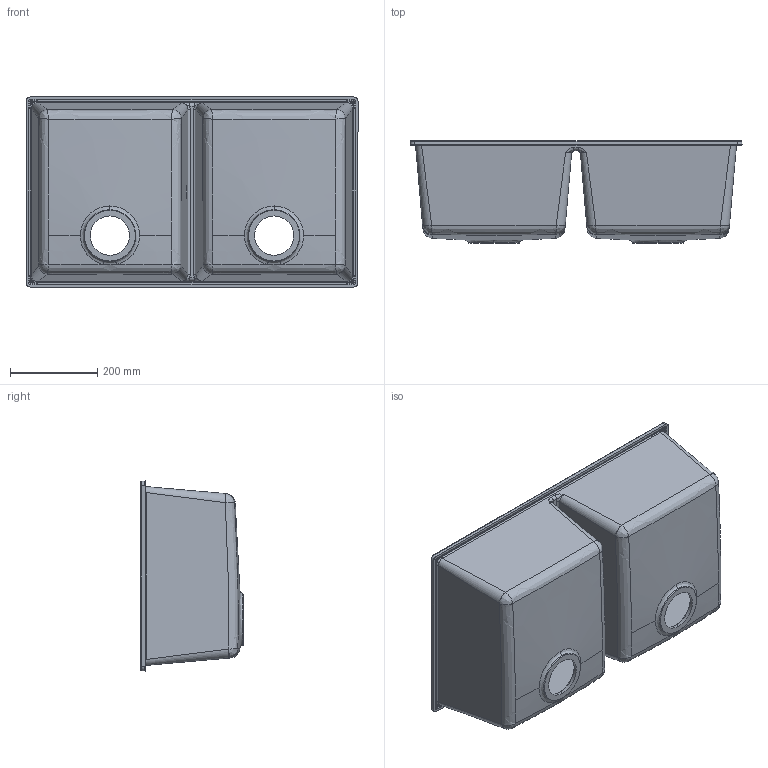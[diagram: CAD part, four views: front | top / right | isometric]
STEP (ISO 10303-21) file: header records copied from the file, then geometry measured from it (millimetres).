
FILE_DESCRIPTION (( 'STEP AP203' ), '1' );
FILE_NAME ('3d_quadra_350_bso.STEP', '2019-01-22T16:19:46', ( '' ), ( '' ), 'SwSTEP 2.0', 'SolidWorks 2013', '' );
FILE_SCHEMA (( 'CONFIG_CONTROL_DESIGN' ));
Length unit declared in the file: millimetre
Products named in the file (1): 3d_quadra_350_bso
Bounding box: 760 x 235.08 x 435 mm (x, y, z)
Volume: 6788763.8 mm3; surface area: 1696277.7 mm2
Topology: 1 solids, 1 shells, 284 faces, 698 edges, 392 vertices
Faces by surface type: bspline 174, cylinder 58, plane 30, cone 22
Entity records: 20584 total; most frequent: CARTESIAN_POINT 15148, ORIENTED_EDGE 1348, DIRECTION 812, EDGE_CURVE 674, VERTEX_POINT 392, AXIS2_PLACEMENT_3D 333, B_SPLINE_CURVE_WITH_KNOTS 296, EDGE_LOOP 290
